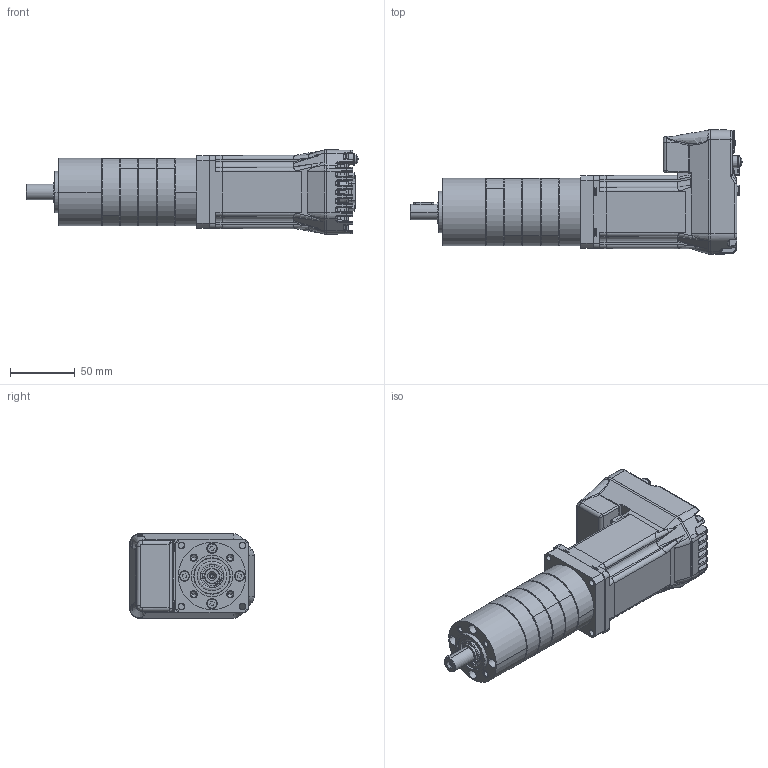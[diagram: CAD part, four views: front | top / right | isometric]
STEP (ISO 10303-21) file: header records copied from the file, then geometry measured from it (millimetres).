
FILE_DESCRIPTION (( 'STEP AP214' ), '1' );
FILE_NAME ('LMD23 + PM52 4etages.STEP', '2016-06-02T15:09:24', ( '' ), ( '' ), 'SwSTEP 2.0', 'SolidWorks 2014', '' );
FILE_SCHEMA (( 'AUTOMOTIVE_DESIGN' ));
Length unit declared in the file: millimetre
Products named in the file (17): PM52 pour EC45Flat-70W_4 etages; Coté moteur^PM52 pour EC45Flat-70W; Coté sortie^PM52 pour EC45Flat-70W; SCHRAUBE_1241978_6; 4X4X16_D6885A_2; D471_12X1_5_2; 8102168_ABTRIEB_LK1_KPL_2; GK2152_POS31_2_LAGERBOLZEN_2; 8101171_ABTRIEB_ROHTEIL_AF0_2; DIN998_PS_12X18X1_2; D625-6001-2RS_2; 8006231_LAGERFLANSCH_2; 8006405_DICHTRING_2; 8006230_ZAHNKRANZ_Z46_2; LMD23 + PM52 4etages; LMD23_Part; ADAPT pm52 POUR lmd23_Part
Assembly tree (30 placements, depth 5):
  LMD23 + PM52 4etages
    PM52 pour EC45Flat-70W_4 etages
      8006230_ZAHNKRANZ_Z46_2  x4
      8006405_DICHTRING_2  x3
      Coté sortie^PM52 pour EC45Flat-70W
        8006231_LAGERFLANSCH_2
        D625-6001-2RS_2  x2
        DIN998_PS_12X18X1_2  x2
        8102168_ABTRIEB_LK1_KPL_2
          8101171_ABTRIEB_ROHTEIL_AF0_2
          GK2152_POS31_2_LAGERBOLZEN_2  x3
        D471_12X1_5_2
        4X4X16_D6885A_2
        8006405_DICHTRING_2
        SCHRAUBE_1241978_6  x4
      Coté moteur^PM52 pour EC45Flat-70W
        8006405_DICHTRING_2
    ADAPT pm52 POUR lmd23_Part
    LMD23_Part
Bounding box: 256.28 x 96.07 x 65.15 mm (x, y, z)
Volume: 558287.1 mm3; surface area: 146150.6 mm2
Topology: 24 solids, 41 shells, 3694 faces, 9643 edges, 6072 vertices
Faces by surface type: plane 1538, cylinder 1314, bspline 587, cone 243, torus 12
Entity records: 161918 total; most frequent: CARTESIAN_POINT 72858, ORIENTED_EDGE 14508, DIRECTION 10254, EDGE_CURVE 7266, VERTEX_POINT 4575, VECTOR 3466, LINE 3466, AXIS2_PLACEMENT_3D 3394
